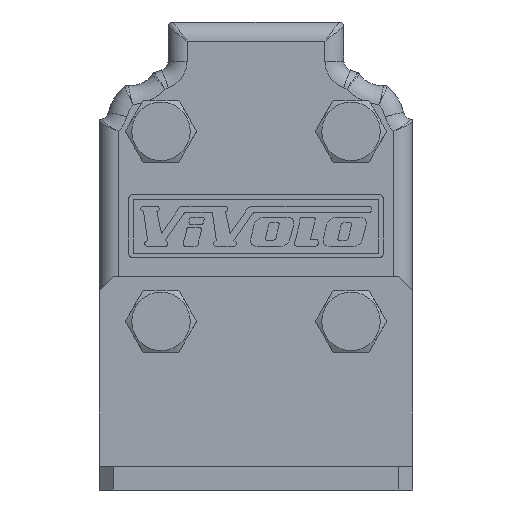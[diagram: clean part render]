
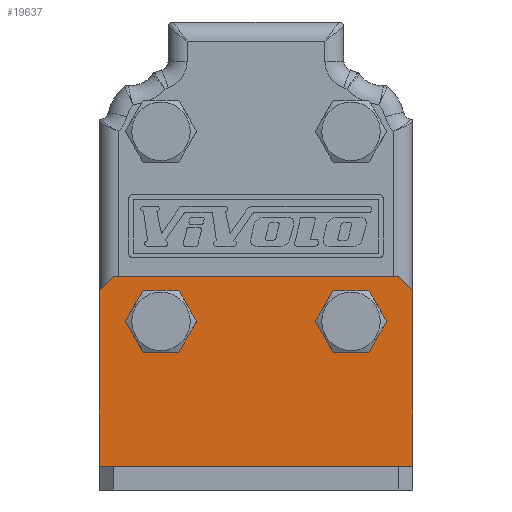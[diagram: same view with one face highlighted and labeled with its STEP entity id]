
A CAD part, front view. The second image highlights one B-rep face of the part: STEP entity #19637.
In plain terms, the highlighted planar face has unit normal (0, -1, 0).
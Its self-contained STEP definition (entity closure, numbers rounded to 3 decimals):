
#642=CIRCLE('',#20534,6.);
#643=CIRCLE('',#20536,6.);
#1632=LINE('',#27820,#2852);
#1639=LINE('',#27843,#2859);
#1640=LINE('',#27845,#2860);
#1641=LINE('',#27847,#2861);
#1642=LINE('',#27849,#2862);
#1643=LINE('',#27851,#2863);
#2852=VECTOR('',#22726,1000.);
#2859=VECTOR('',#22745,1000.);
#2860=VECTOR('',#22746,1000.);
#2861=VECTOR('',#22747,1000.);
#2862=VECTOR('',#22748,1000.);
#2863=VECTOR('',#22749,1000.);
#4664=ORIENTED_EDGE('',*,*,#8397,.T.);
#4665=ORIENTED_EDGE('',*,*,#8396,.T.);
#4666=ORIENTED_EDGE('',*,*,#8459,.F.);
#4667=ORIENTED_EDGE('',*,*,#8448,.T.);
#4668=ORIENTED_EDGE('',*,*,#8460,.F.);
#4669=ORIENTED_EDGE('',*,*,#8461,.F.);
#4670=ORIENTED_EDGE('',*,*,#8462,.F.);
#4671=ORIENTED_EDGE('',*,*,#8463,.F.);
#8396=EDGE_CURVE('',#10378,#10378,#642,.T.);
#8397=EDGE_CURVE('',#10379,#10379,#643,.T.);
#8448=EDGE_CURVE('',#10408,#10409,#1632,.T.);
#8459=EDGE_CURVE('',#10408,#10418,#1639,.T.);
#8460=EDGE_CURVE('',#10419,#10409,#1640,.T.);
#8461=EDGE_CURVE('',#10420,#10419,#1641,.T.);
#8462=EDGE_CURVE('',#10421,#10420,#1642,.T.);
#8463=EDGE_CURVE('',#10418,#10421,#1643,.T.);
#10378=VERTEX_POINT('',#27714);
#10379=VERTEX_POINT('',#27717);
#10408=VERTEX_POINT('',#27821);
#10409=VERTEX_POINT('',#27822);
#10418=VERTEX_POINT('',#27844);
#10419=VERTEX_POINT('',#27846);
#10420=VERTEX_POINT('',#27848);
#10421=VERTEX_POINT('',#27850);
#11755=EDGE_LOOP('',(#4664));
#11756=EDGE_LOOP('',(#4665));
#11757=EDGE_LOOP('',(#4666,#4667,#4668,#4669,#4670,#4671));
#12657=FACE_BOUND('',#11755,.T.);
#12658=FACE_BOUND('',#11756,.T.);
#12659=FACE_BOUND('',#11757,.T.);
#13478=PLANE('',#20570);
#19637=ADVANCED_FACE('',(#12657,#12658,#12659),#13478,.F.);
#20534=AXIS2_PLACEMENT_3D('',#27713,#22618,#22619);
#20536=AXIS2_PLACEMENT_3D('',#27716,#22622,#22623);
#20570=AXIS2_PLACEMENT_3D('',#27842,#22743,#22744);
#22618=DIRECTION('',(0.,1.,0.));
#22619=DIRECTION('',(1.,0.,0.));
#22622=DIRECTION('',(0.,1.,0.));
#22623=DIRECTION('',(1.,0.,0.));
#22726=DIRECTION('',(1.,0.,0.));
#22743=DIRECTION('',(0.,1.,0.));
#22744=DIRECTION('',(0.,0.,1.));
#22745=DIRECTION('',(0.,0.,1.));
#22746=DIRECTION('',(0.,0.,-1.));
#22747=DIRECTION('',(0.707,0.,-0.707));
#22748=DIRECTION('',(1.,0.,0.));
#22749=DIRECTION('',(0.707,0.,0.707));
#27713=CARTESIAN_POINT('',(20.,-5.,-20.));
#27714=CARTESIAN_POINT('',(26.,-5.,-20.));
#27716=CARTESIAN_POINT('',(-20.,-5.,-20.));
#27717=CARTESIAN_POINT('',(-14.,-5.,-20.));
#27820=CARTESIAN_POINT('',(33.,-5.,-50.5));
#27821=CARTESIAN_POINT('',(-33.,-5.,-50.5));
#27822=CARTESIAN_POINT('',(33.,-5.,-50.5));
#27842=CARTESIAN_POINT('',(33.,-5.,-55.5));
#27843=CARTESIAN_POINT('',(-33.,-5.,-55.5));
#27844=CARTESIAN_POINT('',(-33.,-5.,-13.5));
#27845=CARTESIAN_POINT('',(33.,-5.,-13.5));
#27846=CARTESIAN_POINT('',(33.,-5.,-13.5));
#27847=CARTESIAN_POINT('',(30.,-5.,-10.5));
#27848=CARTESIAN_POINT('',(30.,-5.,-10.5));
#27849=CARTESIAN_POINT('',(30.,-5.,-10.5));
#27850=CARTESIAN_POINT('',(-30.,-5.,-10.5));
#27851=CARTESIAN_POINT('',(-33.,-5.,-13.5));
